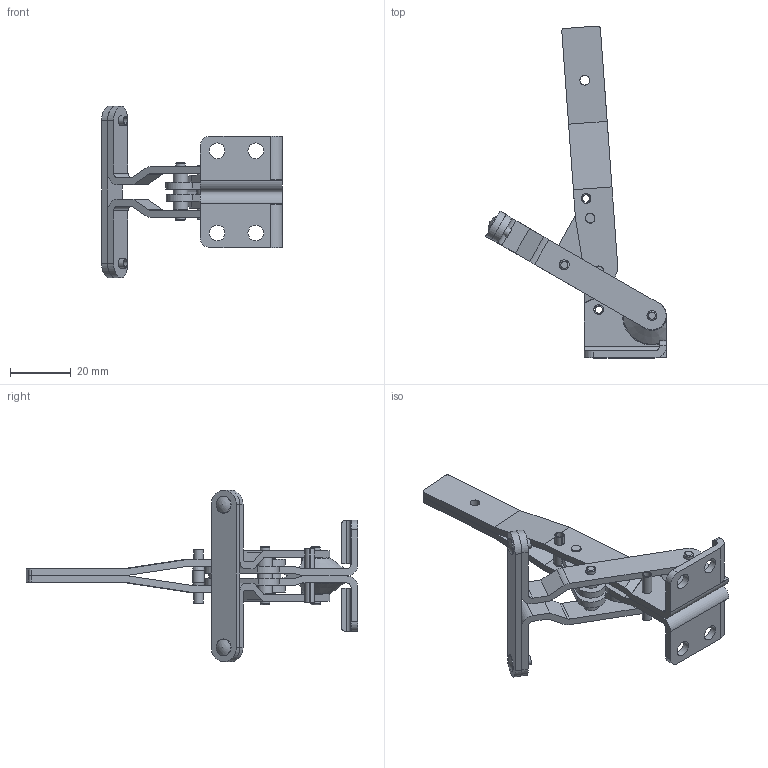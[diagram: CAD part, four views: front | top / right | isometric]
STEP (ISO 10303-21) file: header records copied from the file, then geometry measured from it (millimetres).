
FILE_DESCRIPTION(/* description */ (''),/* implementation_level */ '2;1');
FILE_NAME(/* name */ 'C:\Users\Nick\Desktop\tc-100\3D\TC-100 Open.stp',/* time_stamp */ '2015-10-06T16:06:45-04:00',/* author */ ('Nick'),/* organization */ (''),/* preprocessor_version */ 'ST-DEVELOPER v16.1',/* originating_system */ 'AutoCAD Mechanical',/* authorisation */ '');
FILE_SCHEMA (('AUTOMOTIVE_DESIGN { 1 0 10303 214 3 1 1 }'));
Length unit declared in the file: inch
Products named in the file (1): Product
Bounding box: 59.39 x 108.98 x 56.4 mm (x, y, z)
Volume: 15650.9 mm3; surface area: 18597.8 mm2
Topology: 17 solids, 17 shells, 258 faces, 626 edges, 414 vertices
Faces by surface type: plane 124, cylinder 108, torus 12, cone 10, bspline 4
Full cylindrical faces by diameter (mm): 2.286 x2, 3.048 x2, 3.099 x8, 3.175 x3, 3.2 x2, 3.251 x10, 3.353 x1, 4.674 x4, 4.75 x2, 4.775 x2, 4.826 x8, 5.156 x4, 6.35 x2
Entity records: 7552 total; most frequent: CARTESIAN_POINT 1469, DIRECTION 1290, ORIENTED_EDGE 1116, EDGE_CURVE 558, AXIS2_PLACEMENT_3D 509, VERTEX_POINT 408, EDGE_LOOP 392, LINE 272
